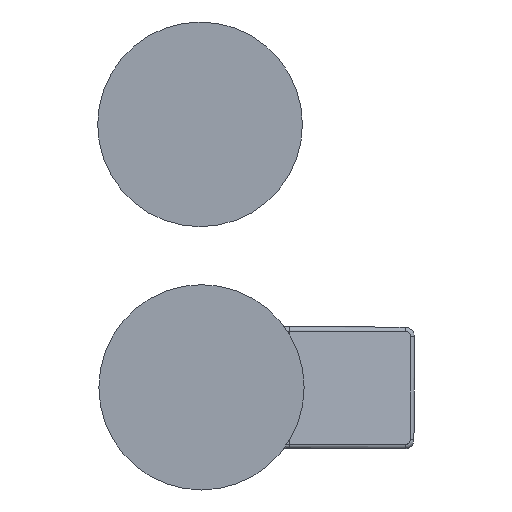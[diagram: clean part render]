
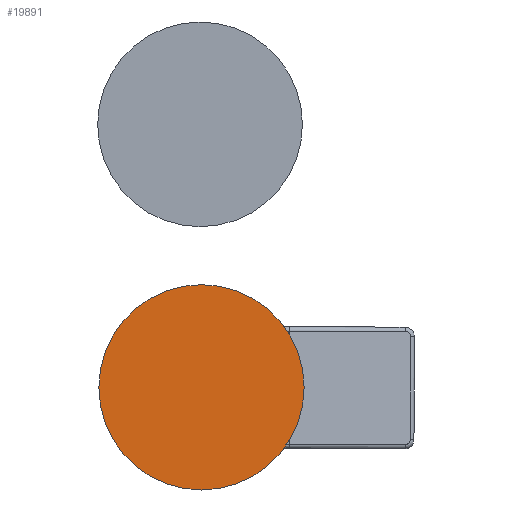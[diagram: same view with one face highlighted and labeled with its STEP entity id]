
A CAD part, left-side view. The second image highlights one B-rep face of the part: STEP entity #19891.
In plain terms, the highlighted planar face has unit normal (-1, 0, 0).
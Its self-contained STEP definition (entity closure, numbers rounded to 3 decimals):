
#192 = DIRECTION ( 'NONE',  ( -1., 0., 0. ) ) ;
#1832 = ORIENTED_EDGE ( 'NONE', *, *, #3910, .T. ) ;
#3910 = EDGE_CURVE ( 'NONE', #8163, #23230, #10861, .T. ) ;
#8163 = VERTEX_POINT ( 'NONE', #21476 ) ;
#10765 = CARTESIAN_POINT ( 'NONE',  ( -122.437, 18.957, -89.595 ) ) ;
#10861 = CIRCLE ( 'NONE', #30927, 35. ) ;
#11357 = DIRECTION ( 'NONE',  ( 0., 0., 1. ) ) ;
#13834 = DIRECTION ( 'NONE',  ( 1., 0., 0. ) ) ;
#14276 = CARTESIAN_POINT ( 'NONE',  ( -122.437, 48.957, -89.595 ) ) ;
#18038 = CIRCLE ( 'NONE', #23765, 35. ) ;
#19295 = CARTESIAN_POINT ( 'NONE',  ( -122.437, 18.957, -124.595 ) ) ;
#19774 = ORIENTED_EDGE ( 'NONE', *, *, #23518, .T. ) ;
#19869 = AXIS2_PLACEMENT_3D ( 'NONE', #14276, #13834, #11357 ) ;
#19891 = ADVANCED_FACE ( 'NONE', ( #30879 ), #42153, .F. ) ;
#21476 = CARTESIAN_POINT ( 'NONE',  ( -122.437, 18.957, -54.595 ) ) ;
#21867 = CARTESIAN_POINT ( 'NONE',  ( -122.437, 18.957, -89.595 ) ) ;
#23230 = VERTEX_POINT ( 'NONE', #19295 ) ;
#23518 = EDGE_CURVE ( 'NONE', #23230, #8163, #18038, .T. ) ;
#23765 = AXIS2_PLACEMENT_3D ( 'NONE', #10765, #192, #27572 ) ;
#27572 = DIRECTION ( 'NONE',  ( 0., 0., -1. ) ) ;
#29712 = EDGE_LOOP ( 'NONE', ( #19774, #1832 ) ) ;
#30879 = FACE_OUTER_BOUND ( 'NONE', #29712, .T. ) ;
#30927 = AXIS2_PLACEMENT_3D ( 'NONE', #21867, #35570, #35786 ) ;
#35570 = DIRECTION ( 'NONE',  ( -1., 0., 0. ) ) ;
#35786 = DIRECTION ( 'NONE',  ( 0., 0., -1. ) ) ;
#42153 = PLANE ( 'NONE',  #19869 ) ;
